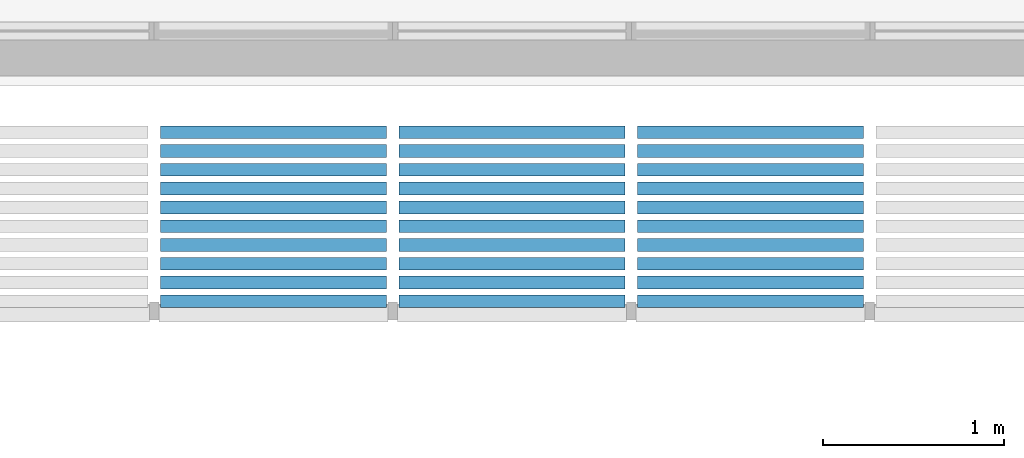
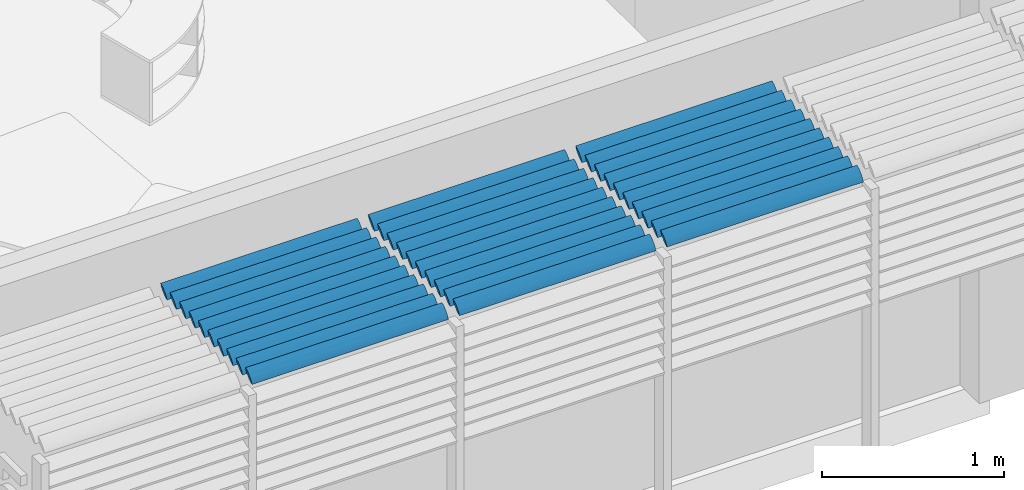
# One storey, part 30 of 64: 3 discrete accessories.
"""IFC2X3 building model written with IfcOpenShell, lengths in metres."""

from ifc_helpers import new_model, entity, si_unit, converted_unit, derived_unit, direction, frame, origin, place, context, subcontext, project, spatial, polyline, outline, extrude, source, transform, mapped, material, type_object, type_shapes, element, save


model = new_model("IFC2X3")

# Units and contexts
model_context = context("Model", 3, precision=1e-05, world=origin(), true_north=direction((6.123031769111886e-17, 1.0)))
body_context = subcontext(model_context, "Body", "Model", "MODEL_VIEW")
ifc_project = project(units=[si_unit("LENGTHUNIT", "METRE"), si_unit("AREAUNIT", "SQUARE_METRE"), si_unit("VOLUMEUNIT", "CUBIC_METRE"), converted_unit("PLANEANGLEUNIT", "DEGREE", entity("IfcRatioMeasure", 0.017453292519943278), si_unit("PLANEANGLEUNIT", "RADIAN"), dimensions=[0, 0, 0, 0, 0, 0, 0]), si_unit("MASSUNIT", "GRAM", prefix="KILO"), derived_unit("MASSDENSITYUNIT", [(si_unit("MASSUNIT", "GRAM", prefix="KILO"), 1), (si_unit("LENGTHUNIT", "METRE"), -3)]), derived_unit("MOMENTOFINERTIAUNIT", [(si_unit("LENGTHUNIT", "METRE"), 4)]), si_unit("TIMEUNIT", "SECOND"), si_unit("FREQUENCYUNIT", "HERTZ"), si_unit("THERMODYNAMICTEMPERATUREUNIT", "DEGREE_CELSIUS"), derived_unit("THERMALTRANSMITTANCEUNIT", [(si_unit("MASSUNIT", "GRAM", prefix="KILO"), 1), (si_unit("THERMODYNAMICTEMPERATUREUNIT", "KELVIN"), -1), (si_unit("TIMEUNIT", "SECOND"), -3)]), derived_unit("THERMALCONDUCTANCEUNIT", [(si_unit("MASSUNIT", "GRAM", prefix="KILO"), 1), (si_unit("LENGTHUNIT", "METRE"), 1), (si_unit("THERMODYNAMICTEMPERATUREUNIT", "KELVIN"), -1), (si_unit("TIMEUNIT", "SECOND"), -3)]), derived_unit("VOLUMETRICFLOWRATEUNIT", [(si_unit("LENGTHUNIT", "METRE"), 3), (si_unit("TIMEUNIT", "SECOND"), -1)]), derived_unit("MASSFLOWRATEUNIT", [(si_unit("MASSUNIT", "GRAM", prefix="KILO"), 1), (si_unit("TIMEUNIT", "SECOND"), -1)]), derived_unit("ROTATIONALFREQUENCYUNIT", [(si_unit("TIMEUNIT", "SECOND"), -1)]), si_unit("ELECTRICCURRENTUNIT", "AMPERE"), si_unit("ELECTRICVOLTAGEUNIT", "VOLT"), si_unit("POWERUNIT", "WATT"), si_unit("FORCEUNIT", "NEWTON", prefix="KILO"), si_unit("ILLUMINANCEUNIT", "LUX"), si_unit("LUMINOUSFLUXUNIT", "LUMEN"), si_unit("LUMINOUSINTENSITYUNIT", "CANDELA"), derived_unit("USERDEFINED", [(si_unit("MASSUNIT", "GRAM", prefix="KILO"), -1), (si_unit("LENGTHUNIT", "METRE"), -2), (si_unit("TIMEUNIT", "SECOND"), 3), (si_unit("LUMINOUSFLUXUNIT", "LUMEN"), 1)]), derived_unit("USERDEFINED", [(si_unit("MASSUNIT", "GRAM", prefix="KILO"), 1), (si_unit("LENGTHUNIT", "METRE"), 3), (si_unit("TIMEUNIT", "SECOND"), -3), (si_unit("ELECTRICCURRENTUNIT", "AMPERE"), -2)]), derived_unit("USERDEFINED", [(si_unit("LENGTHUNIT", "METRE"), 2), (si_unit("TIMEUNIT", "SECOND"), -2)]), derived_unit("SOUNDPOWERUNIT", [(si_unit("MASSUNIT", "GRAM", prefix="KILO"), 1), (si_unit("LENGTHUNIT", "METRE"), 2), (si_unit("TIMEUNIT", "SECOND"), -3)]), derived_unit("SOUNDPRESSUREUNIT", [(si_unit("MASSUNIT", "GRAM", prefix="KILO"), 1), (si_unit("LENGTHUNIT", "METRE"), -1), (si_unit("TIMEUNIT", "SECOND"), -2)]), derived_unit("LINEARVELOCITYUNIT", [(si_unit("LENGTHUNIT", "METRE"), 1), (si_unit("TIMEUNIT", "SECOND"), -1)]), si_unit("PRESSUREUNIT", "PASCAL"), derived_unit("USERDEFINED", [(si_unit("LENGTHUNIT", "METRE"), -2), (si_unit("MASSUNIT", "GRAM", prefix="KILO"), 1), (si_unit("TIMEUNIT", "SECOND"), -2)]), derived_unit("LINEARFORCEUNIT", [(si_unit("MASSUNIT", "GRAM", prefix="KILO"), 1), (si_unit("LENGTHUNIT", "METRE"), 1), (si_unit("TIMEUNIT", "SECOND"), -2), (si_unit("LENGTHUNIT", "METRE"), -1)]), derived_unit("PLANARFORCEUNIT", [(si_unit("MASSUNIT", "GRAM", prefix="KILO"), 1), (si_unit("LENGTHUNIT", "METRE"), 1), (si_unit("TIMEUNIT", "SECOND"), -2), (si_unit("LENGTHUNIT", "METRE"), -2)]), derived_unit("SPECIFICHEATCAPACITYUNIT", [(si_unit("LENGTHUNIT", "METRE"), 2), (si_unit("TIMEUNIT", "SECOND"), -2), (si_unit("THERMODYNAMICTEMPERATUREUNIT", "KELVIN"), -1)]), derived_unit("VAPORPERMEABILITYUNIT", [(si_unit("TIMEUNIT", "SECOND"), 1), (si_unit("LENGTHUNIT", "METRE"), -1)]), derived_unit("DYNAMICVISCOSITYUNIT", [(si_unit("MASSUNIT", "GRAM", prefix="KILO"), 1), (si_unit("LENGTHUNIT", "METRE"), -1), (si_unit("TIMEUNIT", "SECOND"), -1)]), derived_unit("THERMALEXPANSIONCOEFFICIENTUNIT", [(si_unit("THERMODYNAMICTEMPERATUREUNIT", "KELVIN"), -1)])], contexts=[model_context])

# Site, building, storey
site_placement = place(None, origin())
site = spatial("IfcSite", under=ifc_project, at=site_placement, Name="Default", CompositionType="ELEMENT")
building_placement = place(site_placement, origin())
building = spatial("IfcBuilding", under=site, at=building_placement, CompositionType="ELEMENT")
storey_placement = place(building_placement, origin())
storey = spatial("IfcBuildingStorey", under=building, at=storey_placement, Name="REZ-DE-CHAUSSÉE", CompositionType="ELEMENT", Elevation=0.0)

# Discrete accessories
ifc_material = material(Name="Bois - Chêne clair")
discrete_accessory_type_1 = type_object("IfcDiscreteAccessoryType", Name="Symb-0003", material=ifc_material)
shared_shape_1 = source(origin(), body_context, "Body", "SweptSolid", [
    extrude(outline(polyline([(-0.04642383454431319, -0.01856953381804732), (-0.02847328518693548, -0.01856953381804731), (-0.011760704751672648, -0.01547461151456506), (0.019188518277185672, -0.003094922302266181), (0.03342516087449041, 0.006189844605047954), (0.04642383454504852, 0.01856953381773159), (0.028473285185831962, 0.018569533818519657), (0.011760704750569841, 0.015474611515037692), (-0.019188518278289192, 0.0030949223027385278), (-0.033425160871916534, -0.006189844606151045), (-0.04642383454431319, -0.01856953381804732)])), frame((114.32575228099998, 3.9072094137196, 2.6500000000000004), z_axis=(1.0, 0.0, 0.0), x_axis=(0.0, 0.9191450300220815, 0.3939192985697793)), (0.0, 0.0, 1.0), 1.2500000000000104),
    extrude(outline(polyline([(-0.0464238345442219, -0.0185695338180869), (-0.028473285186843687, -0.018569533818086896), (-0.011760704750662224, -0.015474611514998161), (0.01918851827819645, -0.003094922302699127), (0.03342516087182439, 0.006189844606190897), (0.04642383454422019, 0.018569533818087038), (0.02847328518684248, 0.01856953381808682), (0.01176070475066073, 0.0154746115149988), (-0.01918851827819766, 0.003094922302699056), (-0.033425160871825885, -0.0061898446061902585), (-0.0464238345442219, -0.0185695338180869)])), frame((114.32575228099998, 3.8032094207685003, 2.6500000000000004), z_axis=(1.0, 0.0, 0.0), x_axis=(0.0, 0.9191450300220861, 0.39391929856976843)), (0.0, 0.0, 1.0), 1.2500000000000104),
    extrude(outline(polyline([(-0.04642383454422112, -0.01856953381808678), (-0.02847328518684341, -0.01856953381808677), (-0.011760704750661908, -0.015474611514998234), (0.01918851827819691, -0.0030949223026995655), (0.03342516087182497, 0.006189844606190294), (0.04642383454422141, 0.01856953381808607), (0.028473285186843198, 0.01856953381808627), (0.011760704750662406, 0.015474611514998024), (-0.019188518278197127, 0.0030949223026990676), (-0.03342516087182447, -0.006189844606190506), (-0.04642383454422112, -0.01856953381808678)])), frame((114.32575228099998, 3.6992094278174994, 2.6500000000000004), z_axis=(1.0, 0.0, 0.0), x_axis=(0.0, 0.9191450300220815, 0.3939192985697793)), (0.0, 0.0, 1.0), 1.2500000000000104),
    extrude(outline(polyline([(-0.046423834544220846, -0.018569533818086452), (-0.028473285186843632, -0.018569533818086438), (-0.011760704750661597, -0.01547461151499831), (0.019188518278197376, -0.003094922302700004), (0.03342516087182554, 0.0061898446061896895), (0.04642383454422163, 0.018569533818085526), (0.028473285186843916, 0.018569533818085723), (0.011760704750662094, 0.015474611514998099), (-0.01918851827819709, 0.0030949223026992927), (-0.033425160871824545, -0.0061898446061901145), (-0.046423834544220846, -0.018569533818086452)])), frame((114.32575228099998, 3.5952094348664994, 2.6500000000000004), z_axis=(1.0, 0.0, 0.0), x_axis=(0.0, 0.9191450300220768, 0.3939192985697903)), (0.0, 0.0, 1.0), 1.2500000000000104),
    extrude(outline(polyline([(-0.046423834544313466, -0.018569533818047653), (-0.028473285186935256, -0.01856953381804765), (-0.011760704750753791, -0.015474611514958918), (0.019188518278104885, -0.0030949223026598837), (0.03342516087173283, 0.006189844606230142), (0.04642383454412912, 0.01856953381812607), (0.028473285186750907, 0.018569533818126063), (0.011760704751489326, 0.015474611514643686), (-0.01918851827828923, 0.0030949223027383), (-0.03342516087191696, -0.006189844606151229), (-0.046423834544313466, -0.018569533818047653)])), frame((114.32575228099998, 3.4912094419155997, 2.6500000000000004), z_axis=(1.0, 0.0, 0.0), x_axis=(0.0, 0.9191450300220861, 0.39391929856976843)), (0.0, 0.0, 1.0), 1.2500000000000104),
    extrude(outline(polyline([(-0.04642383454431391, -0.018569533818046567), (-0.028473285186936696, -0.018569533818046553), (-0.011760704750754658, -0.01547461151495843), (0.019188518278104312, -0.0030949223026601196), (0.03342516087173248, 0.006189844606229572), (0.046423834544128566, 0.018569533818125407), (0.02847328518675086, 0.018569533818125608), (0.011760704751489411, 0.015474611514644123), (-0.019188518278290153, 0.0030949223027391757), (-0.0334251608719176, -0.006189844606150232), (-0.04642383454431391, -0.018569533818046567)])), frame((114.32575228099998, 3.3872094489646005, 2.6500000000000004), z_axis=(1.0, 0.0, 0.0), x_axis=(0.0, 0.9191450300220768, 0.3939192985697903)), (0.0, 0.0, 1.0), 1.2500000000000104),
    extrude(outline(polyline([(-0.04642383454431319, -0.018569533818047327), (-0.02847328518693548, -0.018569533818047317), (-0.011760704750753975, -0.015474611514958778), (0.019188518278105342, -0.0030949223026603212), (0.033425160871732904, 0.006189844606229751), (0.046423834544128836, 0.01856953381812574), (0.02847328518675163, 0.018569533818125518), (0.011760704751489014, 0.015474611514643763), (-0.019188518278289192, 0.0030949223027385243), (-0.033425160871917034, -0.006189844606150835), (-0.04642383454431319, -0.018569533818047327)])), frame((114.32575228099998, 3.2832094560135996, 2.6500000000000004), z_axis=(1.0, 0.0, 0.0), x_axis=(0.0, 0.9191450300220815, 0.3939192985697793)), (0.0, 0.0, 1.0), 1.2500000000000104),
    extrude(outline(polyline([(-0.046423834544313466, -0.018569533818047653), (-0.028473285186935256, -0.01856953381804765), (-0.011760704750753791, -0.015474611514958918), (0.019188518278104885, -0.0030949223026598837), (0.03342516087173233, 0.006189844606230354), (0.04642383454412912, 0.01856953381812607), (0.028473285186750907, 0.018569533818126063), (0.01176070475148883, 0.015474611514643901), (-0.01918851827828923, 0.0030949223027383), (-0.03342516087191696, -0.006189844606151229), (-0.046423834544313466, -0.018569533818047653)])), frame((114.32575228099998, 3.1792094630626, 2.6500000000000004), z_axis=(1.0, 0.0, 0.0), x_axis=(0.0, 0.9191450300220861, 0.39391929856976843)), (0.0, 0.0, 1.0), 1.2500000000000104),
    extrude(outline(polyline([(-0.04642383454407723, -0.01856953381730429), (-0.028473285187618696, -0.01856953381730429), (-0.011760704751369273, -0.015474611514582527), (0.019188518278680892, -0.0030949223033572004), (0.033425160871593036, 0.006189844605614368), (0.046423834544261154, 0.018569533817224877), (0.028473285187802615, 0.018569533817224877), (0.011760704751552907, 0.015474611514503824), (-0.019188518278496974, 0.003094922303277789), (-0.03342516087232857, -0.006189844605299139), (-0.04642383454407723, -0.01856953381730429)])), frame((114.32575228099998, 3.0752094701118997, 2.6500000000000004), z_axis=(1.0, 0.0, 0.0), x_axis=(0.0, 0.9191450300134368, 0.3939192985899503)), (0.0, 0.0, 1.0), 1.2500000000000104),
    extrude(outline(polyline([(-0.046423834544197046, -0.01856953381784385), (-0.02847328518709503, -0.01856953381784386), (-0.011760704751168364, -0.015474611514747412), (0.01918851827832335, -0.003094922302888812), (0.03342516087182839, 0.006189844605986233), (0.04642383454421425, 0.018569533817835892), (0.02847328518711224, 0.0185695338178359), (0.011760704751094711, 0.015474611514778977), (-0.019188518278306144, 0.0030949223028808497), (-0.033425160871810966, -0.006189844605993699), (-0.046423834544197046, -0.01856953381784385)])), frame((114.32575228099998, 2.97120947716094, 2.6500000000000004), z_axis=(1.0, 0.0, 0.0), x_axis=(0.0, 0.9191450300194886, 0.3939192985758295)), (0.0, 0.0, 1.0), 1.2500000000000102),
])
type_shapes(discrete_accessory_type_1, [shared_shape_1])
discrete_accessory_1_placement = place(storey_placement, origin())
element("IfcDiscreteAccessory", 1, at=discrete_accessory_1_placement, inside=storey, type_object=discrete_accessory_type_1, material=ifc_material, Name="Symb-0003 449597:Symb-0003 449597", ObjectType="Symb-0003 449597:Symb-0003 449597", context=body_context, shape_type="MappedRepresentation", body=[
    mapped(shared_shape_1, transform((0.0, 0.0, 0.0), scale=1.0)),
])
discrete_accessory_type_2 = type_object("IfcDiscreteAccessoryType", Name="Symb-0003", material=ifc_material)
shared_shape_2 = source(origin(), body_context, "Body", "SweptSolid", [
    extrude(outline(polyline([(-0.04642383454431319, -0.01856953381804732), (-0.02847328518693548, -0.01856953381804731), (-0.011760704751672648, -0.01547461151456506), (0.019188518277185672, -0.003094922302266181), (0.03342516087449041, 0.006189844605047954), (0.04642383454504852, 0.01856953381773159), (0.028473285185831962, 0.018569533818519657), (0.011760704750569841, 0.015474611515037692), (-0.019188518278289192, 0.0030949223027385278), (-0.033425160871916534, -0.006189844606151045), (-0.04642383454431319, -0.01856953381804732)])), frame((113.00575228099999, 3.9072094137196, 2.6500000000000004), z_axis=(1.0, 0.0, 0.0), x_axis=(0.0, 0.9191450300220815, 0.3939192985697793)), (0.0, 0.0, 1.0), 1.2500000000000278),
    extrude(outline(polyline([(-0.0464238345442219, -0.0185695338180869), (-0.028473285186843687, -0.018569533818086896), (-0.011760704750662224, -0.015474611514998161), (0.01918851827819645, -0.003094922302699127), (0.03342516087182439, 0.006189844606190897), (0.04642383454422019, 0.018569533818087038), (0.02847328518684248, 0.01856953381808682), (0.01176070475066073, 0.0154746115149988), (-0.01918851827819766, 0.003094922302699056), (-0.033425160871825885, -0.0061898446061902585), (-0.0464238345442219, -0.0185695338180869)])), frame((113.00575228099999, 3.8032094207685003, 2.6500000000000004), z_axis=(1.0, 0.0, 0.0), x_axis=(0.0, 0.9191450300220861, 0.39391929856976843)), (0.0, 0.0, 1.0), 1.2500000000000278),
    extrude(outline(polyline([(-0.04642383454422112, -0.01856953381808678), (-0.02847328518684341, -0.01856953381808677), (-0.011760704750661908, -0.015474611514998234), (0.01918851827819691, -0.0030949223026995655), (0.03342516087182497, 0.006189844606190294), (0.04642383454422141, 0.01856953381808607), (0.028473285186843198, 0.01856953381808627), (0.011760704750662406, 0.015474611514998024), (-0.019188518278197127, 0.0030949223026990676), (-0.03342516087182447, -0.006189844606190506), (-0.04642383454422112, -0.01856953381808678)])), frame((113.00575228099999, 3.6992094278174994, 2.6500000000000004), z_axis=(1.0, 0.0, 0.0), x_axis=(0.0, 0.9191450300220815, 0.3939192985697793)), (0.0, 0.0, 1.0), 1.2500000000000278),
    extrude(outline(polyline([(-0.046423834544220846, -0.018569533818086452), (-0.028473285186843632, -0.018569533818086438), (-0.011760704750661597, -0.01547461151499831), (0.019188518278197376, -0.003094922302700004), (0.03342516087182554, 0.0061898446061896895), (0.04642383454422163, 0.018569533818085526), (0.028473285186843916, 0.018569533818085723), (0.011760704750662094, 0.015474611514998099), (-0.01918851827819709, 0.0030949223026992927), (-0.033425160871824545, -0.0061898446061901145), (-0.046423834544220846, -0.018569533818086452)])), frame((113.00575228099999, 3.5952094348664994, 2.6500000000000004), z_axis=(1.0, 0.0, 0.0), x_axis=(0.0, 0.9191450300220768, 0.3939192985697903)), (0.0, 0.0, 1.0), 1.2500000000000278),
    extrude(outline(polyline([(-0.046423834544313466, -0.018569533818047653), (-0.028473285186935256, -0.01856953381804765), (-0.011760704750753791, -0.015474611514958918), (0.019188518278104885, -0.0030949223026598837), (0.03342516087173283, 0.006189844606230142), (0.04642383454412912, 0.01856953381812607), (0.028473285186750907, 0.018569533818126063), (0.011760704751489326, 0.015474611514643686), (-0.01918851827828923, 0.0030949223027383), (-0.03342516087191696, -0.006189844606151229), (-0.046423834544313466, -0.018569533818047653)])), frame((113.00575228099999, 3.4912094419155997, 2.6500000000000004), z_axis=(1.0, 0.0, 0.0), x_axis=(0.0, 0.9191450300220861, 0.39391929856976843)), (0.0, 0.0, 1.0), 1.2500000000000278),
    extrude(outline(polyline([(-0.04642383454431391, -0.018569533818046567), (-0.028473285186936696, -0.018569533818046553), (-0.011760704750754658, -0.01547461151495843), (0.019188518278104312, -0.0030949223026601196), (0.03342516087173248, 0.006189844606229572), (0.046423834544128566, 0.018569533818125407), (0.02847328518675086, 0.018569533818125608), (0.011760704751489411, 0.015474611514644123), (-0.019188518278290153, 0.0030949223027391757), (-0.0334251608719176, -0.006189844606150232), (-0.04642383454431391, -0.018569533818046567)])), frame((113.00575228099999, 3.3872094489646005, 2.6500000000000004), z_axis=(1.0, 0.0, 0.0), x_axis=(0.0, 0.9191450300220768, 0.3939192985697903)), (0.0, 0.0, 1.0), 1.2500000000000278),
    extrude(outline(polyline([(-0.04642383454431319, -0.018569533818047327), (-0.02847328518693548, -0.018569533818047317), (-0.011760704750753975, -0.015474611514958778), (0.019188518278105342, -0.0030949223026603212), (0.033425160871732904, 0.006189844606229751), (0.046423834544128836, 0.01856953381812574), (0.02847328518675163, 0.018569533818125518), (0.011760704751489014, 0.015474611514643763), (-0.019188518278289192, 0.0030949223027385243), (-0.033425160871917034, -0.006189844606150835), (-0.04642383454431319, -0.018569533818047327)])), frame((113.00575228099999, 3.2832094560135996, 2.6500000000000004), z_axis=(1.0, 0.0, 0.0), x_axis=(0.0, 0.9191450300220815, 0.3939192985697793)), (0.0, 0.0, 1.0), 1.2500000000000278),
    extrude(outline(polyline([(-0.046423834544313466, -0.018569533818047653), (-0.028473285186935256, -0.01856953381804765), (-0.011760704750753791, -0.015474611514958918), (0.019188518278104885, -0.0030949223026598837), (0.03342516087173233, 0.006189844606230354), (0.04642383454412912, 0.01856953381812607), (0.028473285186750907, 0.018569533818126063), (0.01176070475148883, 0.015474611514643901), (-0.01918851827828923, 0.0030949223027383), (-0.03342516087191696, -0.006189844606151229), (-0.046423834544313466, -0.018569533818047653)])), frame((113.00575228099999, 3.1792094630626, 2.6500000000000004), z_axis=(1.0, 0.0, 0.0), x_axis=(0.0, 0.9191450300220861, 0.39391929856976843)), (0.0, 0.0, 1.0), 1.2500000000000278),
    extrude(outline(polyline([(-0.04642383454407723, -0.01856953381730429), (-0.028473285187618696, -0.01856953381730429), (-0.011760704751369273, -0.015474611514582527), (0.019188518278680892, -0.0030949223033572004), (0.033425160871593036, 0.006189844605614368), (0.046423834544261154, 0.018569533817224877), (0.028473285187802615, 0.018569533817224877), (0.011760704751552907, 0.015474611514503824), (-0.019188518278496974, 0.003094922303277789), (-0.03342516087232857, -0.006189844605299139), (-0.04642383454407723, -0.01856953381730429)])), frame((113.00575228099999, 3.0752094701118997, 2.6500000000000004), z_axis=(1.0, 0.0, 0.0), x_axis=(0.0, 0.9191450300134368, 0.3939192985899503)), (0.0, 0.0, 1.0), 1.2500000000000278),
    extrude(outline(polyline([(-0.046423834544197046, -0.01856953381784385), (-0.02847328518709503, -0.01856953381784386), (-0.011760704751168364, -0.015474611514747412), (0.01918851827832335, -0.003094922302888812), (0.03342516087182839, 0.006189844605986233), (0.04642383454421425, 0.018569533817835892), (0.02847328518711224, 0.0185695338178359), (0.011760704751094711, 0.015474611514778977), (-0.019188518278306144, 0.0030949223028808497), (-0.033425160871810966, -0.006189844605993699), (-0.046423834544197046, -0.01856953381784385)])), frame((113.00575228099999, 2.97120947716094, 2.6500000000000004), z_axis=(1.0, 0.0, 0.0), x_axis=(0.0, 0.9191450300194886, 0.3939192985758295)), (0.0, 0.0, 1.0), 1.2500000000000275),
])
type_shapes(discrete_accessory_type_2, [shared_shape_2])
discrete_accessory_2_placement = place(storey_placement, origin())
element("IfcDiscreteAccessory", 2, at=discrete_accessory_2_placement, inside=storey, type_object=discrete_accessory_type_2, material=ifc_material, Name="Symb-0003 449627:Symb-0003 449627", ObjectType="Symb-0003 449627:Symb-0003 449627", context=body_context, shape_type="MappedRepresentation", body=[
    mapped(shared_shape_2, transform((0.0, 0.0, 0.0), scale=1.0)),
])
discrete_accessory_type_3 = type_object("IfcDiscreteAccessoryType", Name="Symb-0003", material=ifc_material)
shared_shape_3 = source(origin(), body_context, "Body", "SweptSolid", [
    extrude(outline(polyline([(-0.04642383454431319, -0.01856953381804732), (-0.02847328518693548, -0.01856953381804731), (-0.011760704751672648, -0.01547461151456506), (0.019188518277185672, -0.003094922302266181), (0.03342516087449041, 0.006189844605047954), (0.04642383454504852, 0.01856953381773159), (0.028473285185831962, 0.018569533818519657), (0.011760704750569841, 0.015474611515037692), (-0.019188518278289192, 0.0030949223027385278), (-0.033425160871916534, -0.006189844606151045), (-0.04642383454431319, -0.01856953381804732)])), frame((111.68575228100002, 3.9072094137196, 2.6500000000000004), z_axis=(1.0, 0.0, 0.0), x_axis=(0.0, 0.9191450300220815, 0.3939192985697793)), (0.0, 0.0, 1.0), 1.2500000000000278),
    extrude(outline(polyline([(-0.0464238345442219, -0.0185695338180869), (-0.028473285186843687, -0.018569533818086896), (-0.011760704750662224, -0.015474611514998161), (0.01918851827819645, -0.003094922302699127), (0.03342516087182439, 0.006189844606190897), (0.04642383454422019, 0.018569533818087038), (0.02847328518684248, 0.01856953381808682), (0.01176070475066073, 0.0154746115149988), (-0.01918851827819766, 0.003094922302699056), (-0.033425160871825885, -0.0061898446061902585), (-0.0464238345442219, -0.0185695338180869)])), frame((111.68575228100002, 3.8032094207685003, 2.6500000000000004), z_axis=(1.0, 0.0, 0.0), x_axis=(0.0, 0.9191450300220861, 0.39391929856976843)), (0.0, 0.0, 1.0), 1.2500000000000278),
    extrude(outline(polyline([(-0.04642383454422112, -0.01856953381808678), (-0.02847328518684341, -0.01856953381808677), (-0.011760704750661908, -0.015474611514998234), (0.01918851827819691, -0.0030949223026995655), (0.03342516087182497, 0.006189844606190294), (0.04642383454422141, 0.01856953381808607), (0.028473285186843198, 0.01856953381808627), (0.011760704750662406, 0.015474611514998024), (-0.019188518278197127, 0.0030949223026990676), (-0.03342516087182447, -0.006189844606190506), (-0.04642383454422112, -0.01856953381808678)])), frame((111.68575228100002, 3.6992094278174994, 2.6500000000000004), z_axis=(1.0, 0.0, 0.0), x_axis=(0.0, 0.9191450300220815, 0.3939192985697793)), (0.0, 0.0, 1.0), 1.2500000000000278),
    extrude(outline(polyline([(-0.046423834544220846, -0.018569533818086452), (-0.028473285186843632, -0.018569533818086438), (-0.011760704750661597, -0.01547461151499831), (0.019188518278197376, -0.003094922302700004), (0.03342516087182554, 0.0061898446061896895), (0.04642383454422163, 0.018569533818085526), (0.028473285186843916, 0.018569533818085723), (0.011760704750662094, 0.015474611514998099), (-0.01918851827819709, 0.0030949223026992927), (-0.033425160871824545, -0.0061898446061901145), (-0.046423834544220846, -0.018569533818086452)])), frame((111.68575228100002, 3.5952094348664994, 2.6500000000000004), z_axis=(1.0, 0.0, 0.0), x_axis=(0.0, 0.9191450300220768, 0.3939192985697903)), (0.0, 0.0, 1.0), 1.2500000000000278),
    extrude(outline(polyline([(-0.046423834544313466, -0.018569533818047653), (-0.028473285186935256, -0.01856953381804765), (-0.011760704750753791, -0.015474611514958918), (0.019188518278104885, -0.0030949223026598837), (0.03342516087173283, 0.006189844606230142), (0.04642383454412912, 0.01856953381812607), (0.028473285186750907, 0.018569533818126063), (0.011760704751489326, 0.015474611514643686), (-0.01918851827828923, 0.0030949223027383), (-0.03342516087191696, -0.006189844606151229), (-0.046423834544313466, -0.018569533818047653)])), frame((111.68575228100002, 3.4912094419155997, 2.6500000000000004), z_axis=(1.0, 0.0, 0.0), x_axis=(0.0, 0.9191450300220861, 0.39391929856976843)), (0.0, 0.0, 1.0), 1.2500000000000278),
    extrude(outline(polyline([(-0.04642383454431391, -0.018569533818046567), (-0.028473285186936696, -0.018569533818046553), (-0.011760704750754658, -0.01547461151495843), (0.019188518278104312, -0.0030949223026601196), (0.03342516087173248, 0.006189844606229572), (0.046423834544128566, 0.018569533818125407), (0.02847328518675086, 0.018569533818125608), (0.011760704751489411, 0.015474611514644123), (-0.019188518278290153, 0.0030949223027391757), (-0.0334251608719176, -0.006189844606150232), (-0.04642383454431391, -0.018569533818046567)])), frame((111.68575228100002, 3.3872094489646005, 2.6500000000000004), z_axis=(1.0, 0.0, 0.0), x_axis=(0.0, 0.9191450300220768, 0.3939192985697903)), (0.0, 0.0, 1.0), 1.2500000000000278),
    extrude(outline(polyline([(-0.04642383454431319, -0.018569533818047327), (-0.02847328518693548, -0.018569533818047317), (-0.011760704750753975, -0.015474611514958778), (0.019188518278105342, -0.0030949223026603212), (0.033425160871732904, 0.006189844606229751), (0.046423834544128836, 0.01856953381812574), (0.02847328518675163, 0.018569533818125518), (0.011760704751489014, 0.015474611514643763), (-0.019188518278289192, 0.0030949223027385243), (-0.033425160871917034, -0.006189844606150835), (-0.04642383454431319, -0.018569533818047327)])), frame((111.68575228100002, 3.2832094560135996, 2.6500000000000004), z_axis=(1.0, 0.0, 0.0), x_axis=(0.0, 0.9191450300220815, 0.3939192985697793)), (0.0, 0.0, 1.0), 1.2500000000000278),
    extrude(outline(polyline([(-0.046423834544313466, -0.018569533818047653), (-0.028473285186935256, -0.01856953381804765), (-0.011760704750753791, -0.015474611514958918), (0.019188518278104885, -0.0030949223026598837), (0.03342516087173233, 0.006189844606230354), (0.04642383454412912, 0.01856953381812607), (0.028473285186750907, 0.018569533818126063), (0.01176070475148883, 0.015474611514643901), (-0.01918851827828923, 0.0030949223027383), (-0.03342516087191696, -0.006189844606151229), (-0.046423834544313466, -0.018569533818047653)])), frame((111.68575228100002, 3.1792094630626, 2.6500000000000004), z_axis=(1.0, 0.0, 0.0), x_axis=(0.0, 0.9191450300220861, 0.39391929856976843)), (0.0, 0.0, 1.0), 1.2500000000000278),
    extrude(outline(polyline([(-0.04642383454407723, -0.01856953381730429), (-0.028473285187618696, -0.01856953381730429), (-0.011760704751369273, -0.015474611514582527), (0.019188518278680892, -0.0030949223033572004), (0.033425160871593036, 0.006189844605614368), (0.046423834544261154, 0.018569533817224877), (0.028473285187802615, 0.018569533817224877), (0.011760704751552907, 0.015474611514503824), (-0.019188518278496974, 0.003094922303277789), (-0.03342516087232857, -0.006189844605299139), (-0.04642383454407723, -0.01856953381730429)])), frame((111.68575228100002, 3.0752094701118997, 2.6500000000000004), z_axis=(1.0, 0.0, 0.0), x_axis=(0.0, 0.9191450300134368, 0.3939192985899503)), (0.0, 0.0, 1.0), 1.2500000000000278),
    extrude(outline(polyline([(-0.046423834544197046, -0.01856953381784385), (-0.02847328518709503, -0.01856953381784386), (-0.011760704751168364, -0.015474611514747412), (0.01918851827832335, -0.003094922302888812), (0.03342516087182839, 0.006189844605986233), (0.04642383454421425, 0.018569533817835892), (0.02847328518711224, 0.0185695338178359), (0.011760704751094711, 0.015474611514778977), (-0.019188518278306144, 0.0030949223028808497), (-0.033425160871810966, -0.006189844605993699), (-0.046423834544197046, -0.01856953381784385)])), frame((111.68575228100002, 2.97120947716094, 2.6500000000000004), z_axis=(1.0, 0.0, 0.0), x_axis=(0.0, 0.9191450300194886, 0.3939192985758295)), (0.0, 0.0, 1.0), 1.2500000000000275),
])
type_shapes(discrete_accessory_type_3, [shared_shape_3])
discrete_accessory_3_placement = place(storey_placement, origin())
element("IfcDiscreteAccessory", 3, at=discrete_accessory_3_placement, inside=storey, type_object=discrete_accessory_type_3, material=ifc_material, Name="Symb-0003 449657:Symb-0003 449657", ObjectType="Symb-0003 449657:Symb-0003 449657", context=body_context, shape_type="MappedRepresentation", body=[
    mapped(shared_shape_3, transform((0.0, 0.0, 0.0), scale=1.0)),
])

save(model, "model.ifc")
